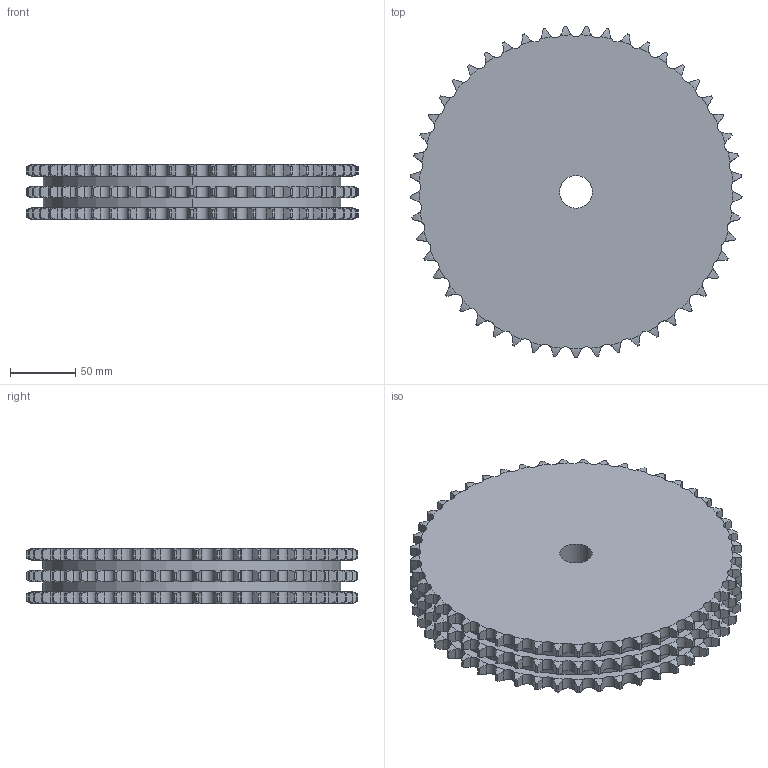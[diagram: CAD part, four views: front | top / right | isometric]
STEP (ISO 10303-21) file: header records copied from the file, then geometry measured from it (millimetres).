
FILE_DESCRIPTION((''),'2;1');
FILE_NAME('500-303-0049_PRT','2021-02-12T',('Brieden'),('Brieden'),'PRO/ENGINEER BY PARAMETRIC TECHNOLOGY CORPORATION, 2010160','PRO/ENGINEER BY PARAMETRIC TECHNOLOGY CORPORATION, 2010160','');
FILE_SCHEMA(('AUTOMOTIVE_DESIGN { 1 0 10303 214 1 1 1 1 }'));
Length unit declared in the file: millimetre
Products named in the file (1): 500-303-0049_PRT
Bounding box: 253.93 x 253.8 x 42.1 mm (x, y, z)
Volume: 1852636.2 mm3; surface area: 160100 mm2
Topology: 1 solids, 1 shells, 894 faces, 2664 edges, 1776 vertices
Faces by surface type: cylinder 594, torus 294, plane 6
Entity records: 44116 total; most frequent: CARTESIAN_POINT 13477, ORIENTED_EDGE 5328, DIRECTION 4170, PRESENTATION_STYLE_ASSIGNMENT 2665, STYLED_ITEM 2665, CURVE_STYLE 2664, EDGE_CURVE 2664, AXIS2_PLACEMENT_3D 1788
